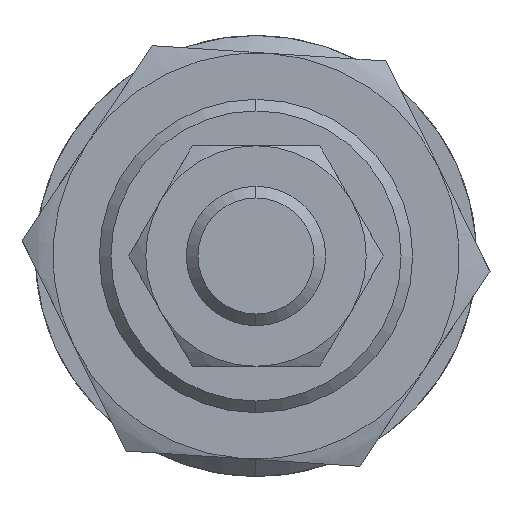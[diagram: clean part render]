
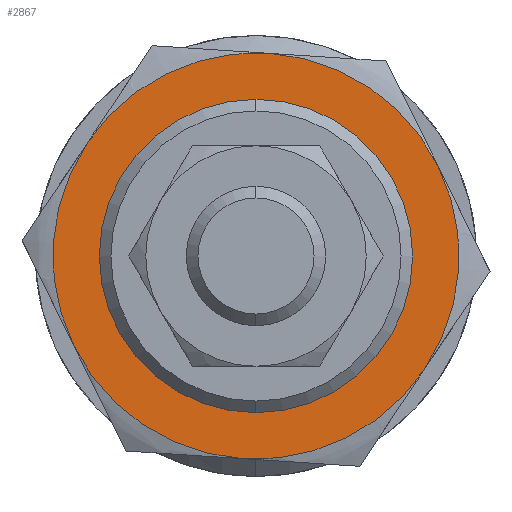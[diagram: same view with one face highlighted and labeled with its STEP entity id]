
A CAD part, left-side view. The second image highlights one B-rep face of the part: STEP entity #2867.
In plain terms, the highlighted planar face has unit normal (-1, 0, 0) as drawn and (0, 0, -1) by its records, which use the part's own axes.
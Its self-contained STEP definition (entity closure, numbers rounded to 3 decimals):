
#77 = EDGE_CURVE ( 'NONE', #2667, #681, #1601, .T. ) ;
#127 = CIRCLE ( 'NONE', #1265, 17.5 ) ;
#144 = AXIS2_PLACEMENT_3D ( 'NONE', #444, #2516, #2776 ) ;
#160 = DIRECTION ( 'NONE',  ( 0., 0., 1. ) ) ;
#245 = CIRCLE ( 'NONE', #2974, 12.5 ) ;
#253 = CARTESIAN_POINT ( 'NONE',  ( 0., 0., -5. ) ) ;
#277 = CARTESIAN_POINT ( 'NONE',  ( -8.75, 15.155, -5. ) ) ;
#300 = CARTESIAN_POINT ( 'NONE',  ( -12.5, 0., -5. ) ) ;
#319 = ORIENTED_EDGE ( 'NONE', *, *, #1636, .T. ) ;
#322 = DIRECTION ( 'NONE',  ( 1., 0., 0. ) ) ;
#379 = EDGE_LOOP ( 'NONE', ( #2362, #2330, #2726, #1044, #1602, #3090 ) ) ;
#388 = CARTESIAN_POINT ( 'NONE',  ( -8.75, -15.155, -5. ) ) ;
#415 = CIRCLE ( 'NONE', #2689, 17.5 ) ;
#416 = CARTESIAN_POINT ( 'NONE',  ( -17.5, 0., -5. ) ) ;
#444 = CARTESIAN_POINT ( 'NONE',  ( 0., 0., -5. ) ) ;
#497 = EDGE_CURVE ( 'NONE', #764, #1574, #2391, .T. ) ;
#657 = CIRCLE ( 'NONE', #1243, 17.5 ) ;
#681 = VERTEX_POINT ( 'NONE', #1842 ) ;
#686 = CARTESIAN_POINT ( 'NONE',  ( 0., 0., -5. ) ) ;
#689 = AXIS2_PLACEMENT_3D ( 'NONE', #2509, #1973, #3291 ) ;
#721 = DIRECTION ( 'NONE',  ( 0., 0., 1. ) ) ;
#764 = VERTEX_POINT ( 'NONE', #3001 ) ;
#779 = DIRECTION ( 'NONE',  ( 1., 0., 0. ) ) ;
#868 = DIRECTION ( 'NONE',  ( 0., 0., 1. ) ) ;
#927 = EDGE_CURVE ( 'NONE', #1118, #2805, #2908, .T. ) ;
#957 = EDGE_LOOP ( 'NONE', ( #319, #2329 ) ) ;
#1044 = ORIENTED_EDGE ( 'NONE', *, *, #927, .F. ) ;
#1053 = VERTEX_POINT ( 'NONE', #2229 ) ;
#1118 = VERTEX_POINT ( 'NONE', #416 ) ;
#1193 = AXIS2_PLACEMENT_3D ( 'NONE', #2916, #1901, #322 ) ;
#1195 = FACE_BOUND ( 'NONE', #957, .T. ) ;
#1236 = DIRECTION ( 'NONE',  ( 0., 0., 1. ) ) ;
#1243 = AXIS2_PLACEMENT_3D ( 'NONE', #2012, #1236, #3034 ) ;
#1265 = AXIS2_PLACEMENT_3D ( 'NONE', #2934, #868, #2383 ) ;
#1340 = DIRECTION ( 'NONE',  ( 0., 0., 1. ) ) ;
#1440 = FACE_OUTER_BOUND ( 'NONE', #379, .T. ) ;
#1574 = VERTEX_POINT ( 'NONE', #277 ) ;
#1601 = CIRCLE ( 'NONE', #144, 12.5 ) ;
#1602 = ORIENTED_EDGE ( 'NONE', *, *, #2746, .F. ) ;
#1627 = CARTESIAN_POINT ( 'NONE',  ( 0., 0., -5. ) ) ;
#1636 = EDGE_CURVE ( 'NONE', #681, #2667, #245, .T. ) ;
#1842 = CARTESIAN_POINT ( 'NONE',  ( 12.5, 0., -5. ) ) ;
#1901 = DIRECTION ( 'NONE',  ( 0., 0., 1. ) ) ;
#1907 = DIRECTION ( 'NONE',  ( 0., 0., 1. ) ) ;
#1973 = DIRECTION ( 'NONE',  ( 0., 0., 1. ) ) ;
#1974 = DIRECTION ( 'NONE',  ( 1., 0., 0. ) ) ;
#2005 = VERTEX_POINT ( 'NONE', #2678 ) ;
#2012 = CARTESIAN_POINT ( 'NONE',  ( 0., 0., -5. ) ) ;
#2229 = CARTESIAN_POINT ( 'NONE',  ( 8.75, -15.155, -5. ) ) ;
#2248 = CARTESIAN_POINT ( 'NONE',  ( 0., 0., -5. ) ) ;
#2302 = EDGE_CURVE ( 'NONE', #2005, #764, #657, .T. ) ;
#2329 = ORIENTED_EDGE ( 'NONE', *, *, #77, .T. ) ;
#2330 = ORIENTED_EDGE ( 'NONE', *, *, #3134, .F. ) ;
#2362 = ORIENTED_EDGE ( 'NONE', *, *, #2302, .F. ) ;
#2383 = DIRECTION ( 'NONE',  ( 1., 0., 0. ) ) ;
#2391 = CIRCLE ( 'NONE', #2623, 17.5 ) ;
#2421 = DIRECTION ( 'NONE',  ( 1., 0., 0. ) ) ;
#2509 = CARTESIAN_POINT ( 'NONE',  ( 0., 0., -5. ) ) ;
#2516 = DIRECTION ( 'NONE',  ( 0., 0., 1. ) ) ;
#2623 = AXIS2_PLACEMENT_3D ( 'NONE', #2248, #721, #1974 ) ;
#2667 = VERTEX_POINT ( 'NONE', #300 ) ;
#2678 = CARTESIAN_POINT ( 'NONE',  ( 17.5, 0., -5. ) ) ;
#2689 = AXIS2_PLACEMENT_3D ( 'NONE', #1627, #1907, #2421 ) ;
#2715 = PLANE ( 'NONE',  #3000 ) ;
#2726 = ORIENTED_EDGE ( 'NONE', *, *, #2737, .F. ) ;
#2737 = EDGE_CURVE ( 'NONE', #2805, #1053, #127, .T. ) ;
#2746 = EDGE_CURVE ( 'NONE', #1574, #1118, #415, .T. ) ;
#2776 = DIRECTION ( 'NONE',  ( 1., 0., 0. ) ) ;
#2805 = VERTEX_POINT ( 'NONE', #388 ) ;
#2867 = ADVANCED_FACE ( 'NONE', ( #1195, #1440 ), #2715, .F. ) ;
#2908 = CIRCLE ( 'NONE', #1193, 17.5 ) ;
#2916 = CARTESIAN_POINT ( 'NONE',  ( 0., 0., -5. ) ) ;
#2934 = CARTESIAN_POINT ( 'NONE',  ( 0., 0., -5. ) ) ;
#2974 = AXIS2_PLACEMENT_3D ( 'NONE', #253, #1340, #779 ) ;
#3000 = AXIS2_PLACEMENT_3D ( 'NONE', #686, #160, #3218 ) ;
#3001 = CARTESIAN_POINT ( 'NONE',  ( 8.75, 15.155, -5. ) ) ;
#3026 = CIRCLE ( 'NONE', #689, 17.5 ) ;
#3034 = DIRECTION ( 'NONE',  ( 1., 0., 0. ) ) ;
#3090 = ORIENTED_EDGE ( 'NONE', *, *, #497, .F. ) ;
#3134 = EDGE_CURVE ( 'NONE', #1053, #2005, #3026, .T. ) ;
#3218 = DIRECTION ( 'NONE',  ( 1., 0., 0. ) ) ;
#3291 = DIRECTION ( 'NONE',  ( 1., 0., 0. ) ) ;
